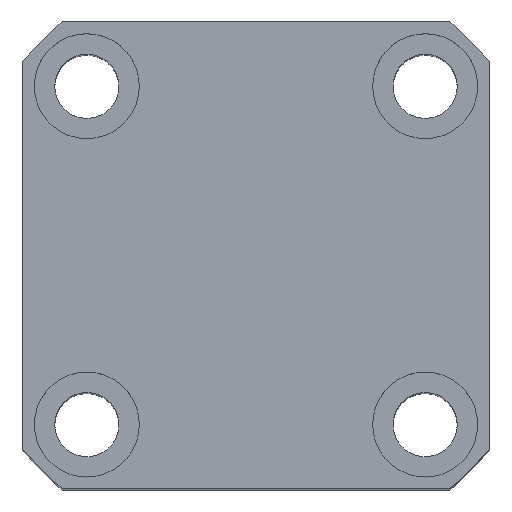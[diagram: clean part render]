
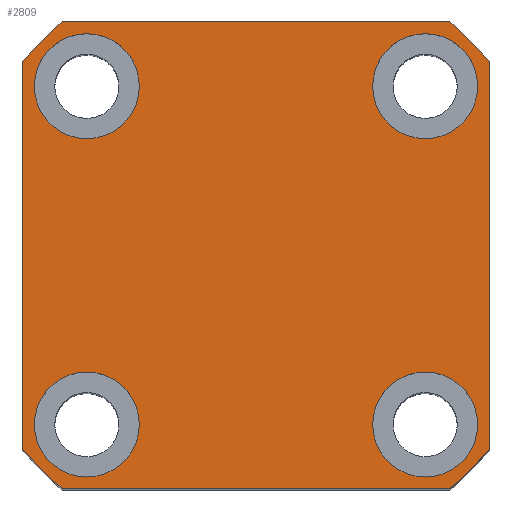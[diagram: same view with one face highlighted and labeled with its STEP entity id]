
A CAD part, top view. The second image highlights one B-rep face of the part: STEP entity #2809.
In plain terms, the highlighted planar face has unit normal (0, 0, 1).
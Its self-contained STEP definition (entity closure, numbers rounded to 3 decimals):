
#56 = DIRECTION ( 'NONE',  ( 1., 0., 0. ) ) ;
#146 = AXIS2_PLACEMENT_3D ( 'NONE', #3054, #7384, #4862 ) ;
#336 = EDGE_CURVE ( 'NONE', #4361, #2371, #9509, .T. ) ;
#364 = VERTEX_POINT ( 'NONE', #3858 ) ;
#545 = EDGE_CURVE ( 'NONE', #883, #10787, #10808, .T. ) ;
#556 = AXIS2_PLACEMENT_3D ( 'NONE', #836, #6715, #7522 ) ;
#657 = CARTESIAN_POINT ( 'NONE',  ( -29., -29., 65. ) ) ;
#724 = AXIS2_PLACEMENT_3D ( 'NONE', #2207, #4596, #3910 ) ;
#727 = ORIENTED_EDGE ( 'NONE', *, *, #1910, .T. ) ;
#752 = EDGE_CURVE ( 'NONE', #2371, #4361, #10423, .T. ) ;
#836 = CARTESIAN_POINT ( 'NONE',  ( -29., 29., 65. ) ) ;
#883 = VERTEX_POINT ( 'NONE', #9828 ) ;
#888 = CARTESIAN_POINT ( 'NONE',  ( -29., -29., 65. ) ) ;
#1162 = CARTESIAN_POINT ( 'NONE',  ( 40., -33.226, 65. ) ) ;
#1325 = CIRCLE ( 'NONE', #4703, 9. ) ;
#1366 = EDGE_CURVE ( 'NONE', #364, #9597, #2059, .T. ) ;
#1424 = CARTESIAN_POINT ( 'NONE',  ( 33.226, -40., 65. ) ) ;
#1426 = EDGE_LOOP ( 'NONE', ( #9586, #4426 ) ) ;
#1430 = CARTESIAN_POINT ( 'NONE',  ( -40., 33.226, 65. ) ) ;
#1557 = DIRECTION ( 'NONE',  ( 1., 0., 0. ) ) ;
#1604 = CARTESIAN_POINT ( 'NONE',  ( -38., 29., 65. ) ) ;
#1625 = CARTESIAN_POINT ( 'NONE',  ( 40., 33.226, 65. ) ) ;
#1753 = CARTESIAN_POINT ( 'NONE',  ( -33.226, -40., 65. ) ) ;
#1902 = CIRCLE ( 'NONE', #556, 9. ) ;
#1910 = EDGE_CURVE ( 'NONE', #2838, #5091, #7166, .T. ) ;
#1913 = FACE_BOUND ( 'NONE', #5316, .T. ) ;
#1961 = AXIS2_PLACEMENT_3D ( 'NONE', #3414, #8513, #8477 ) ;
#2033 = FACE_BOUND ( 'NONE', #7112, .T. ) ;
#2059 = LINE ( 'NONE', #5386, #8355 ) ;
#2207 = CARTESIAN_POINT ( 'NONE',  ( 0., 0., 65. ) ) ;
#2224 = AXIS2_PLACEMENT_3D ( 'NONE', #10256, #3573, #9439 ) ;
#2236 = AXIS2_PLACEMENT_3D ( 'NONE', #3938, #7308, #9661 ) ;
#2299 = ORIENTED_EDGE ( 'NONE', *, *, #6536, .T. ) ;
#2350 = VERTEX_POINT ( 'NONE', #4897 ) ;
#2371 = VERTEX_POINT ( 'NONE', #2422 ) ;
#2400 = VERTEX_POINT ( 'NONE', #1625 ) ;
#2422 = CARTESIAN_POINT ( 'NONE',  ( 38., -29., 65. ) ) ;
#2554 = CARTESIAN_POINT ( 'NONE',  ( -33.226, 40., 65. ) ) ;
#2604 = EDGE_CURVE ( 'NONE', #5091, #10141, #4278, .T. ) ;
#2689 = ORIENTED_EDGE ( 'NONE', *, *, #7145, .T. ) ;
#2793 = EDGE_CURVE ( 'NONE', #10141, #3256, #9125, .T. ) ;
#2809 = ADVANCED_FACE ( 'NONE', ( #5600, #2033, #1913, #10824, #3887 ), #10177, .T. ) ;
#2838 = VERTEX_POINT ( 'NONE', #5112 ) ;
#2918 = DIRECTION ( 'NONE',  ( 0., 0., 1. ) ) ;
#3030 = ORIENTED_EDGE ( 'NONE', *, *, #2793, .T. ) ;
#3054 = CARTESIAN_POINT ( 'NONE',  ( 0., 0., 65. ) ) ;
#3099 = VERTEX_POINT ( 'NONE', #6325 ) ;
#3256 = VERTEX_POINT ( 'NONE', #1162 ) ;
#3353 = CARTESIAN_POINT ( 'NONE',  ( 29., -29., 65. ) ) ;
#3399 = ORIENTED_EDGE ( 'NONE', *, *, #1366, .T. ) ;
#3409 = DIRECTION ( 'NONE',  ( 0., 0., 1. ) ) ;
#3414 = CARTESIAN_POINT ( 'NONE',  ( 0., 0., 65. ) ) ;
#3447 = DIRECTION ( 'NONE',  ( 1., 0., 0. ) ) ;
#3573 = DIRECTION ( 'NONE',  ( 0., 0., 1. ) ) ;
#3806 = EDGE_CURVE ( 'NONE', #9597, #8320, #9595, .T. ) ;
#3858 = CARTESIAN_POINT ( 'NONE',  ( 33.226, 40., 65. ) ) ;
#3887 = FACE_OUTER_BOUND ( 'NONE', #6139, .T. ) ;
#3910 = DIRECTION ( 'NONE',  ( 1., 0., 0. ) ) ;
#3938 = CARTESIAN_POINT ( 'NONE',  ( 29., -29., 65. ) ) ;
#4124 = DIRECTION ( 'NONE',  ( 0., 0., 1. ) ) ;
#4235 = DIRECTION ( 'NONE',  ( 0., 0., 1. ) ) ;
#4278 = LINE ( 'NONE', #10786, #7028 ) ;
#4361 = VERTEX_POINT ( 'NONE', #8213 ) ;
#4426 = ORIENTED_EDGE ( 'NONE', *, *, #10669, .F. ) ;
#4596 = DIRECTION ( 'NONE',  ( 0., 0., 1. ) ) ;
#4609 = CARTESIAN_POINT ( 'NONE',  ( 0., 0., 65. ) ) ;
#4679 = ORIENTED_EDGE ( 'NONE', *, *, #2604, .T. ) ;
#4703 = AXIS2_PLACEMENT_3D ( 'NONE', #888, #4124, #9990 ) ;
#4838 = DIRECTION ( 'NONE',  ( 1., 0., 0. ) ) ;
#4862 = DIRECTION ( 'NONE',  ( 1., 0., 0. ) ) ;
#4866 = DIRECTION ( 'NONE',  ( 1., 0., 0. ) ) ;
#4882 = CIRCLE ( 'NONE', #10311, 9. ) ;
#4897 = CARTESIAN_POINT ( 'NONE',  ( -20., 29., 65. ) ) ;
#4991 = DIRECTION ( 'NONE',  ( 1., 0., 0. ) ) ;
#5069 = AXIS2_PLACEMENT_3D ( 'NONE', #6720, #3409, #4991 ) ;
#5091 = VERTEX_POINT ( 'NONE', #1753 ) ;
#5112 = CARTESIAN_POINT ( 'NONE',  ( -40., -33.226, 65. ) ) ;
#5316 = EDGE_LOOP ( 'NONE', ( #10760, #6258 ) ) ;
#5386 = CARTESIAN_POINT ( 'NONE',  ( -33.226, 40., 65. ) ) ;
#5424 = DIRECTION ( 'NONE',  ( 1., 0., 0. ) ) ;
#5599 = ORIENTED_EDGE ( 'NONE', *, *, #7862, .F. ) ;
#5600 = FACE_BOUND ( 'NONE', #7561, .T. ) ;
#5679 = ORIENTED_EDGE ( 'NONE', *, *, #752, .F. ) ;
#5819 = DIRECTION ( 'NONE',  ( 0., 0., 1. ) ) ;
#5911 = AXIS2_PLACEMENT_3D ( 'NONE', #4609, #2918, #5424 ) ;
#5984 = VECTOR ( 'NONE', #8184, 1000. ) ;
#6014 = CIRCLE ( 'NONE', #2224, 9. ) ;
#6139 = EDGE_LOOP ( 'NONE', ( #10195, #2689, #727, #4679, #3030, #8608, #2299, #3399 ) ) ;
#6183 = EDGE_CURVE ( 'NONE', #8522, #3099, #1325, .T. ) ;
#6258 = ORIENTED_EDGE ( 'NONE', *, *, #7385, .F. ) ;
#6325 = CARTESIAN_POINT ( 'NONE',  ( -38., -29., 65. ) ) ;
#6511 = DIRECTION ( 'NONE',  ( 0., -1., 0. ) ) ;
#6536 = EDGE_CURVE ( 'NONE', #2400, #364, #9329, .T. ) ;
#6586 = CARTESIAN_POINT ( 'NONE',  ( -40., 33.226, 65. ) ) ;
#6685 = AXIS2_PLACEMENT_3D ( 'NONE', #9284, #6917, #3447 ) ;
#6701 = CARTESIAN_POINT ( 'NONE',  ( 20., 29., 65. ) ) ;
#6715 = DIRECTION ( 'NONE',  ( 0., 0., 1. ) ) ;
#6720 = CARTESIAN_POINT ( 'NONE',  ( 29., 29., 65. ) ) ;
#6917 = DIRECTION ( 'NONE',  ( 0., 0., 1. ) ) ;
#7028 = VECTOR ( 'NONE', #1557, 1000. ) ;
#7112 = EDGE_LOOP ( 'NONE', ( #8651, #5599 ) ) ;
#7145 = EDGE_CURVE ( 'NONE', #8320, #2838, #9117, .T. ) ;
#7166 = CIRCLE ( 'NONE', #5911, 52. ) ;
#7181 = EDGE_CURVE ( 'NONE', #3256, #2400, #8601, .T. ) ;
#7308 = DIRECTION ( 'NONE',  ( 0., 0., 1. ) ) ;
#7384 = DIRECTION ( 'NONE',  ( 0., 0., 1. ) ) ;
#7385 = EDGE_CURVE ( 'NONE', #10329, #2350, #1902, .T. ) ;
#7522 = DIRECTION ( 'NONE',  ( 1., 0., 0. ) ) ;
#7538 = ORIENTED_EDGE ( 'NONE', *, *, #336, .F. ) ;
#7561 = EDGE_LOOP ( 'NONE', ( #5679, #7538 ) ) ;
#7862 = EDGE_CURVE ( 'NONE', #3099, #8522, #8893, .T. ) ;
#7963 = EDGE_CURVE ( 'NONE', #2350, #10329, #6014, .T. ) ;
#8074 = AXIS2_PLACEMENT_3D ( 'NONE', #657, #9016, #4838 ) ;
#8184 = DIRECTION ( 'NONE',  ( 0., 1., 0. ) ) ;
#8213 = CARTESIAN_POINT ( 'NONE',  ( 20., -29., 65. ) ) ;
#8320 = VERTEX_POINT ( 'NONE', #6586 ) ;
#8355 = VECTOR ( 'NONE', #8757, 1000. ) ;
#8477 = DIRECTION ( 'NONE',  ( 1., 0., 0. ) ) ;
#8513 = DIRECTION ( 'NONE',  ( 0., 0., 1. ) ) ;
#8522 = VERTEX_POINT ( 'NONE', #10586 ) ;
#8601 = LINE ( 'NONE', #9028, #5984 ) ;
#8608 = ORIENTED_EDGE ( 'NONE', *, *, #7181, .T. ) ;
#8651 = ORIENTED_EDGE ( 'NONE', *, *, #6183, .F. ) ;
#8757 = DIRECTION ( 'NONE',  ( -1., 0., 0. ) ) ;
#8893 = CIRCLE ( 'NONE', #8074, 9. ) ;
#9016 = DIRECTION ( 'NONE',  ( 0., 0., 1. ) ) ;
#9028 = CARTESIAN_POINT ( 'NONE',  ( 40., 33.226, 65. ) ) ;
#9117 = LINE ( 'NONE', #1430, #9790 ) ;
#9125 = CIRCLE ( 'NONE', #1961, 52. ) ;
#9284 = CARTESIAN_POINT ( 'NONE',  ( 0., 0., 65. ) ) ;
#9329 = CIRCLE ( 'NONE', #146, 52. ) ;
#9439 = DIRECTION ( 'NONE',  ( 1., 0., 0. ) ) ;
#9509 = CIRCLE ( 'NONE', #2236, 9. ) ;
#9586 = ORIENTED_EDGE ( 'NONE', *, *, #545, .F. ) ;
#9595 = CIRCLE ( 'NONE', #724, 52. ) ;
#9597 = VERTEX_POINT ( 'NONE', #2554 ) ;
#9661 = DIRECTION ( 'NONE',  ( 1., 0., 0. ) ) ;
#9790 = VECTOR ( 'NONE', #6511, 1000. ) ;
#9828 = CARTESIAN_POINT ( 'NONE',  ( 38., 29., 65. ) ) ;
#9921 = AXIS2_PLACEMENT_3D ( 'NONE', #3353, #4235, #56 ) ;
#9990 = DIRECTION ( 'NONE',  ( 1., 0., 0. ) ) ;
#10141 = VERTEX_POINT ( 'NONE', #1424 ) ;
#10177 = PLANE ( 'NONE',  #6685 ) ;
#10195 = ORIENTED_EDGE ( 'NONE', *, *, #3806, .T. ) ;
#10256 = CARTESIAN_POINT ( 'NONE',  ( -29., 29., 65. ) ) ;
#10311 = AXIS2_PLACEMENT_3D ( 'NONE', #10751, #5819, #4866 ) ;
#10329 = VERTEX_POINT ( 'NONE', #1604 ) ;
#10423 = CIRCLE ( 'NONE', #9921, 9. ) ;
#10586 = CARTESIAN_POINT ( 'NONE',  ( -20., -29., 65. ) ) ;
#10669 = EDGE_CURVE ( 'NONE', #10787, #883, #4882, .T. ) ;
#10751 = CARTESIAN_POINT ( 'NONE',  ( 29., 29., 65. ) ) ;
#10760 = ORIENTED_EDGE ( 'NONE', *, *, #7963, .F. ) ;
#10786 = CARTESIAN_POINT ( 'NONE',  ( -33.226, -40., 65. ) ) ;
#10787 = VERTEX_POINT ( 'NONE', #6701 ) ;
#10808 = CIRCLE ( 'NONE', #5069, 9. ) ;
#10824 = FACE_BOUND ( 'NONE', #1426, .T. ) ;
